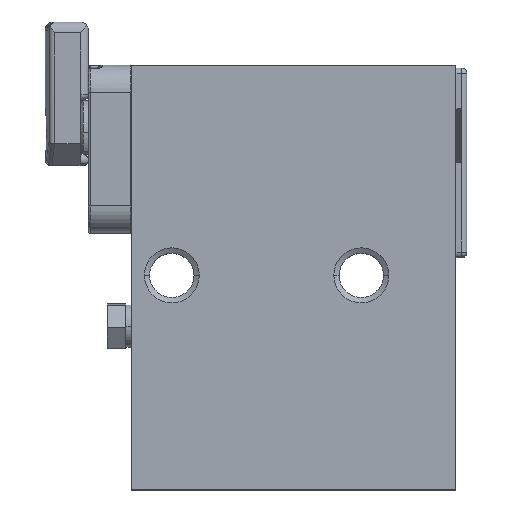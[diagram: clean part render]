
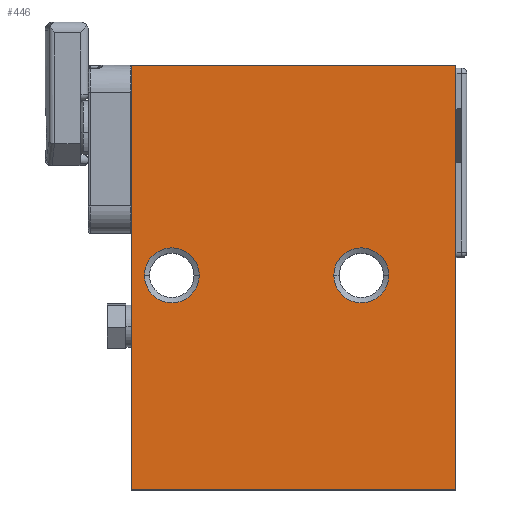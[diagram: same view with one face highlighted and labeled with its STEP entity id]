
A CAD part, top view. The second image highlights one B-rep face of the part: STEP entity #446.
In plain terms, the highlighted planar face has unit normal (0, 0, 1).
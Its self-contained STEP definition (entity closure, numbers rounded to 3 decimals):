
#54 = DIRECTION ( 'NONE',  ( -1., 0., 0. ) ) ;
#118 = LINE ( 'NONE', #10246, #2658 ) ;
#187 = EDGE_LOOP ( 'NONE', ( #13209, #12621, #7023, #9043 ) ) ;
#274 = ORIENTED_EDGE ( 'NONE', *, *, #1693, .F. ) ;
#381 = CARTESIAN_POINT ( 'NONE',  ( 37.425, 39.6, 40. ) ) ;
#446 = ADVANCED_FACE ( 'NONE', ( #6831, #13910, #4000 ), #14127, .F. ) ;
#710 = DIRECTION ( 'NONE',  ( 1., 0., 0. ) ) ;
#750 = EDGE_CURVE ( 'NONE', #6321, #2050, #118, .T. ) ;
#837 = ORIENTED_EDGE ( 'NONE', *, *, #11031, .F. ) ;
#857 = DIRECTION ( 'NONE',  ( 0., 0., 1. ) ) ;
#1016 = EDGE_CURVE ( 'NONE', #2869, #8087, #12806, .T. ) ;
#1693 = EDGE_CURVE ( 'NONE', #6072, #7281, #12215, .T. ) ;
#1955 = DIRECTION ( 'NONE',  ( 0., 1., 0. ) ) ;
#2050 = VERTEX_POINT ( 'NONE', #6563 ) ;
#2197 = CARTESIAN_POINT ( 'NONE',  ( 0., 0., 40. ) ) ;
#2658 = VECTOR ( 'NONE', #54, 1000. ) ;
#2729 = EDGE_CURVE ( 'NONE', #8019, #8924, #5392, .T. ) ;
#2869 = VERTEX_POINT ( 'NONE', #8092 ) ;
#2873 = CARTESIAN_POINT ( 'NONE',  ( 2.425, 39.6, 40. ) ) ;
#2960 = CARTESIAN_POINT ( 'NONE',  ( 0., 78.4, 40. ) ) ;
#3321 = DIRECTION ( 'NONE',  ( 1., 0., 0. ) ) ;
#3648 = AXIS2_PLACEMENT_3D ( 'NONE', #13527, #13742, #3321 ) ;
#3745 = CARTESIAN_POINT ( 'NONE',  ( 60., 78.4, 40. ) ) ;
#3919 = AXIS2_PLACEMENT_3D ( 'NONE', #2960, #9805, #6066 ) ;
#3958 = DIRECTION ( 'NONE',  ( 0., 0., 1. ) ) ;
#4000 = FACE_BOUND ( 'NONE', #10106, .T. ) ;
#4241 = LINE ( 'NONE', #7602, #5375 ) ;
#4421 = CARTESIAN_POINT ( 'NONE',  ( 42.5, 39.6, 40. ) ) ;
#4459 = DIRECTION ( 'NONE',  ( 1., 0., 0. ) ) ;
#4484 = AXIS2_PLACEMENT_3D ( 'NONE', #6256, #3958, #7386 ) ;
#5375 = VECTOR ( 'NONE', #1955, 1000. ) ;
#5392 = LINE ( 'NONE', #10982, #8022 ) ;
#6066 = DIRECTION ( 'NONE',  ( 0., -1., 0. ) ) ;
#6072 = VERTEX_POINT ( 'NONE', #2873 ) ;
#6256 = CARTESIAN_POINT ( 'NONE',  ( 42.5, 39.6, 40. ) ) ;
#6321 = VERTEX_POINT ( 'NONE', #3745 ) ;
#6563 = CARTESIAN_POINT ( 'NONE',  ( 0., 78.4, 40. ) ) ;
#6623 = DIRECTION ( 'NONE',  ( 0., 0., 1. ) ) ;
#6831 = FACE_OUTER_BOUND ( 'NONE', #187, .T. ) ;
#7023 = ORIENTED_EDGE ( 'NONE', *, *, #11941, .T. ) ;
#7281 = VERTEX_POINT ( 'NONE', #11962 ) ;
#7386 = DIRECTION ( 'NONE',  ( 1., 0., 0. ) ) ;
#7602 = CARTESIAN_POINT ( 'NONE',  ( 60., 0., 40. ) ) ;
#8019 = VERTEX_POINT ( 'NONE', #13595 ) ;
#8022 = VECTOR ( 'NONE', #11051, 1000. ) ;
#8087 = VERTEX_POINT ( 'NONE', #381 ) ;
#8092 = CARTESIAN_POINT ( 'NONE',  ( 47.575, 39.6, 40. ) ) ;
#8446 = CARTESIAN_POINT ( 'NONE',  ( 60., 0., 40. ) ) ;
#8469 = CIRCLE ( 'NONE', #12993, 5.075 ) ;
#8924 = VERTEX_POINT ( 'NONE', #8446 ) ;
#9043 = ORIENTED_EDGE ( 'NONE', *, *, #750, .T. ) ;
#9805 = DIRECTION ( 'NONE',  ( 0., 0., -1. ) ) ;
#10106 = EDGE_LOOP ( 'NONE', ( #10962, #837 ) ) ;
#10135 = LINE ( 'NONE', #2197, #12309 ) ;
#10246 = CARTESIAN_POINT ( 'NONE',  ( 0., 78.4, 40. ) ) ;
#10620 = CIRCLE ( 'NONE', #10862, 5.075 ) ;
#10862 = AXIS2_PLACEMENT_3D ( 'NONE', #4421, #857, #710 ) ;
#10922 = EDGE_LOOP ( 'NONE', ( #13315, #274 ) ) ;
#10962 = ORIENTED_EDGE ( 'NONE', *, *, #1016, .F. ) ;
#10982 = CARTESIAN_POINT ( 'NONE',  ( 0., 0., 40. ) ) ;
#11031 = EDGE_CURVE ( 'NONE', #8087, #2869, #10620, .T. ) ;
#11051 = DIRECTION ( 'NONE',  ( 1., 0., 0. ) ) ;
#11941 = EDGE_CURVE ( 'NONE', #8924, #6321, #4241, .T. ) ;
#11950 = EDGE_CURVE ( 'NONE', #7281, #6072, #8469, .T. ) ;
#11962 = CARTESIAN_POINT ( 'NONE',  ( 12.575, 39.6, 40. ) ) ;
#12214 = CARTESIAN_POINT ( 'NONE',  ( 7.5, 39.6, 40. ) ) ;
#12215 = CIRCLE ( 'NONE', #3648, 5.075 ) ;
#12309 = VECTOR ( 'NONE', #12529, 1000. ) ;
#12529 = DIRECTION ( 'NONE',  ( 0., -1., 0. ) ) ;
#12621 = ORIENTED_EDGE ( 'NONE', *, *, #2729, .T. ) ;
#12746 = EDGE_CURVE ( 'NONE', #2050, #8019, #10135, .T. ) ;
#12806 = CIRCLE ( 'NONE', #4484, 5.075 ) ;
#12993 = AXIS2_PLACEMENT_3D ( 'NONE', #12214, #6623, #4459 ) ;
#13209 = ORIENTED_EDGE ( 'NONE', *, *, #12746, .T. ) ;
#13315 = ORIENTED_EDGE ( 'NONE', *, *, #11950, .F. ) ;
#13527 = CARTESIAN_POINT ( 'NONE',  ( 7.5, 39.6, 40. ) ) ;
#13595 = CARTESIAN_POINT ( 'NONE',  ( 0., 0., 40. ) ) ;
#13742 = DIRECTION ( 'NONE',  ( 0., 0., 1. ) ) ;
#13910 = FACE_BOUND ( 'NONE', #10922, .T. ) ;
#14127 = PLANE ( 'NONE',  #3919 ) ;
